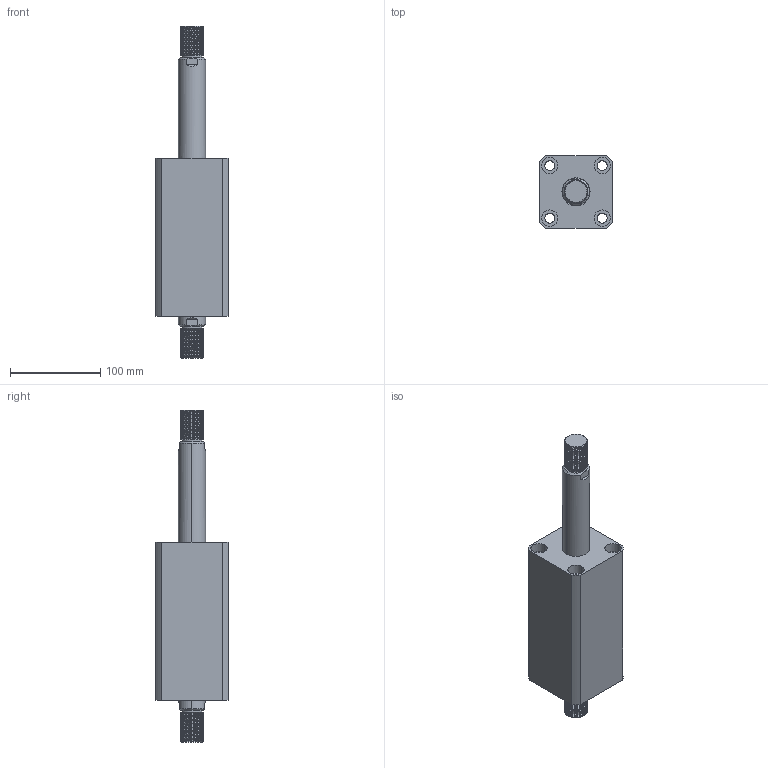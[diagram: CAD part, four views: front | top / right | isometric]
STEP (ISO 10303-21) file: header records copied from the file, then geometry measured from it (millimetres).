
FILE_DESCRIPTION (( 'STEP AP203' ), '1' );
FILE_NAME ('CHTB-SW50-100W.STEP', '2018-05-21T08:03:03', ( '' ), ( '' ), 'SwSTEP 2.0', 'SolidWorks 2015', '' );
FILE_SCHEMA (( 'CONFIG_CONTROL_DESIGN' ));
Length unit declared in the file: millimetre
Products named in the file (4): 活塞杆SW50-100W; 掛极SW50-100W; CHTB-SW50-100W; ヶ裔
Assembly tree (3 placements, depth 2):
  CHTB-SW50-100W
    掛极SW50-100W
    活塞杆SW50-100W
    ヶ裔
Bounding box: 80 x 80 x 367 mm (x, y, z)
Volume: 1010517.8 mm3; surface area: 176924.4 mm2
Topology: 3 solids, 3 shells, 314 faces, 794 edges, 514 vertices
Faces by surface type: cylinder 202, plane 51, cone 29, torus 24, bspline 8
Entity records: 17377 total; most frequent: CARTESIAN_POINT 10049, ORIENTED_EDGE 1580, DIRECTION 1358, EDGE_CURVE 790, AXIS2_PLACEMENT_3D 549, VERTEX_POINT 514, EDGE_LOOP 362, ADVANCED_FACE 314
